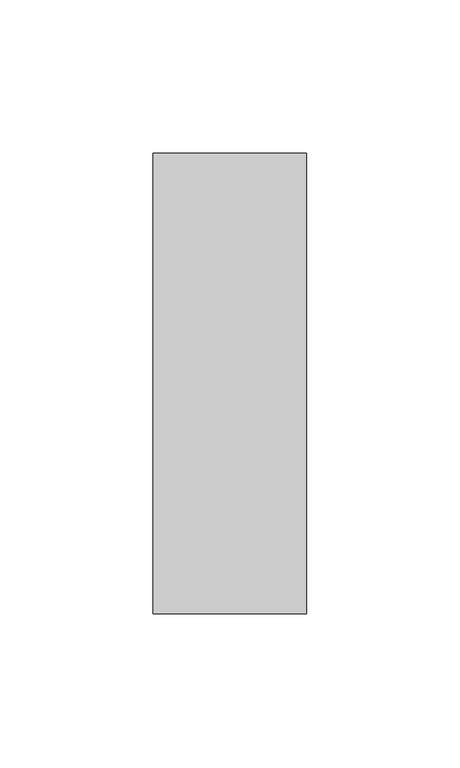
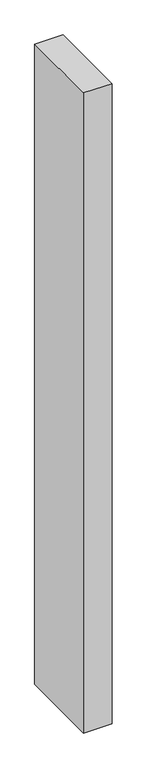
"""IFC4 building model written with IfcOpenShell, lengths in millimetres: member geometry, Прямоугольный импост : 50 x 150 мм."""

from ifc_helpers import new_model, si_unit, frame, origin, place, context, project, spatial, polyline, outline, extrude, source, transform, mapped, element, save


def member_7259faed(model_context):
    return source(origin(), model_context, "Body", "SweptSolid", [
        extrude(outline(polyline([(25.0, 75.0), (25.0, -75.0), (-25.0, -75.0), (-25.0, 75.0), (25.0, 75.0)])), frame((0.0, 0.0, -1197.557715), z_axis=(0.0, 0.0, 1.0), x_axis=(1.0, 0.0, 0.0)), (0.0, 0.0, 1.0), 1197.557715),
    ])


if __name__ == "__main__":
    model = new_model("IFC4")
    model_context = context("Model", 3, world=origin())
    ifc_project = project(units=[si_unit("LENGTHUNIT", "METRE", prefix="MILLI")], contexts=[model_context])
    site = spatial("IfcSite", under=ifc_project)
    building = spatial("IfcBuilding", under=site)
    placement = place(None, origin())
    member_shape = member_7259faed(model_context)
    element("IfcMember", 1, ObjectType="Прямоугольный импост : 50 x 150 мм", at=placement, inside=building, context=model_context, shape_type="MappedRepresentation", body=[
        mapped(member_shape, transform((0.0, 0.0, 0.0), x_axis=(1.0, 0.0, 0.0), y_axis=(0.0, 1.0, 0.0), z_axis=(0.0, 0.0, 1.0))),
    ])
    save(model, "model.ifc")
